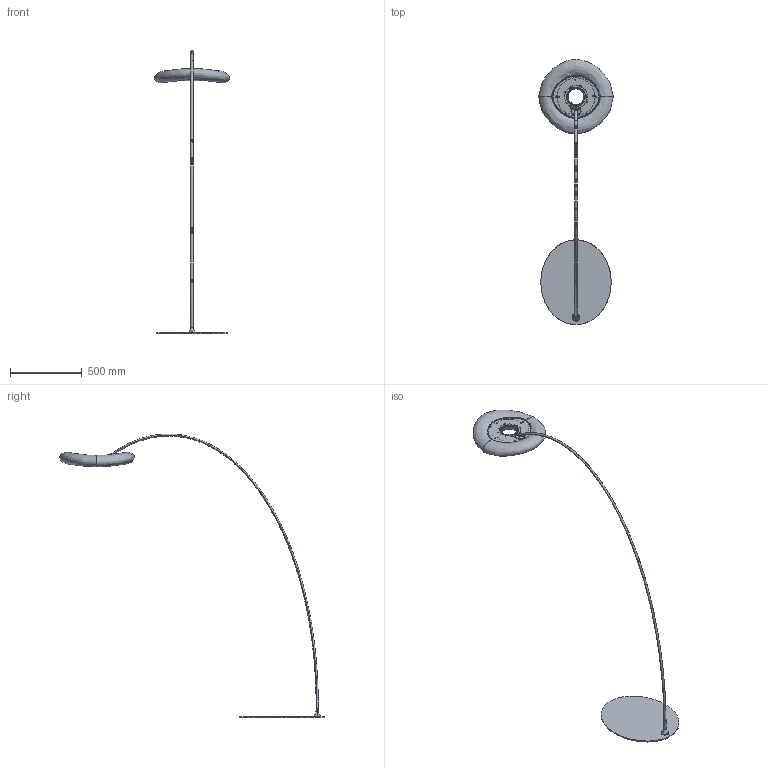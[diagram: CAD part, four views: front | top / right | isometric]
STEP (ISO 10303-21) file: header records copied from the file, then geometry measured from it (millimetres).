
FILE_DESCRIPTION(/* description */ (''),/* implementation_level */ '2;1');
FILE_NAME(/* name */ '8009',/* time_stamp */ '2016-09-29T11:56:51+02:00',/* author */ (''),/* organization */ (''),/* preprocessor_version */ 'ST-DEVELOPER v10',/* originating_system */ '',/* authorisation */ '');
FILE_SCHEMA (('AUTOMOTIVE_DESIGN'));
Length unit declared in the file: millimetre
Products named in the file (16): 1; 2; 3; 4; 5; 6; 7; 8; 9; 10; 11; 12; 13; 14; 15; 16
Assembly tree (32 placements, depth 3):
  1
    2
      3
    4
      5
      6
      7
    8
      9
      10
    11  x8
    12  x9
    13  x3
    14
    15
      16
Bounding box: 520 x 1843.46 x 1978.69 mm (x, y, z)
Volume: 3134784.1 mm3; surface area: 1718753.5 mm2
Topology: 28 solids, 28 shells, 1550 faces, 3537 edges, 1999 vertices
Faces by surface type: bspline 864, plane 686
Entity records: 117825 total; most frequent: CARTESIAN_POINT 109261, ORIENTED_EDGE 2566, EDGE_CURVE 1283, VERTEX_POINT 831, B_SPLINE_CURVE_WITH_KNOTS 807, EDGE_LOOP 598, ADVANCED_FACE 503, FACE_OUTER_BOUND 503
